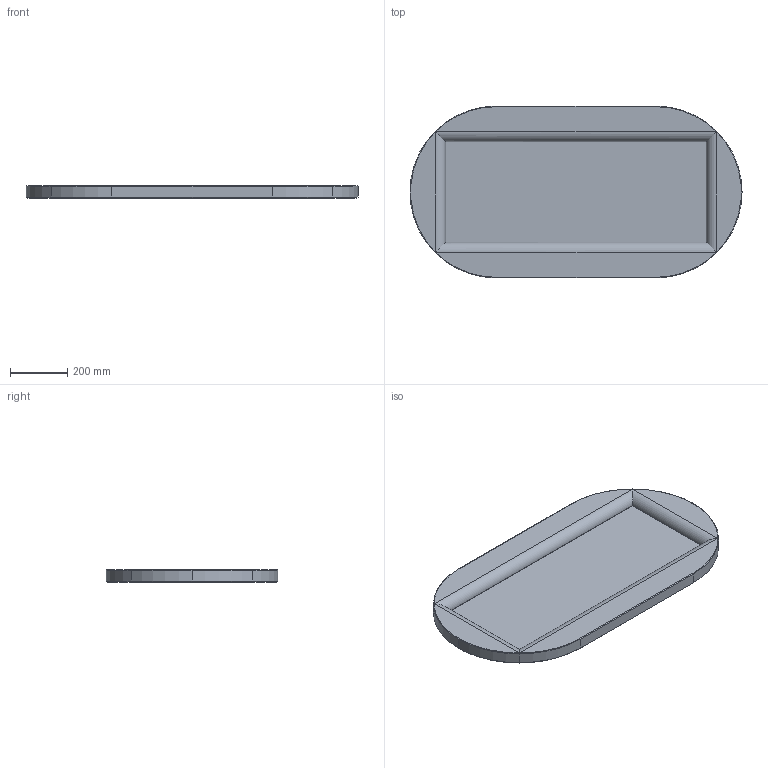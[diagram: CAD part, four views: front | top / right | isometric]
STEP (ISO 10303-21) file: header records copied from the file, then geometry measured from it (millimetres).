
FILE_DESCRIPTION (( 'STEP AP203' ), '1' );
FILE_NAME ('SIGNET MIRROR 116.STEP', '2025-08-29T11:26:31', ( '' ), ( '' ), 'SwSTEP 2.0', 'SolidWorks 2025', '' );
FILE_SCHEMA (( 'CONFIG_CONTROL_DESIGN' ));
Length unit declared in the file: millimetre
Products named in the file (2): Group1^SIGNET MIRROR 116; SIGNET MIRROR 116
Assembly tree (1 placements, depth 2):
  SIGNET MIRROR 116
    Group1^SIGNET MIRROR 116
Bounding box: 1160 x 600 x 45 mm (x, y, z)
Volume: 14996319.4 mm3; surface area: 2150386.3 mm2
Topology: 2 solids, 2 shells, 70 faces, 146 edges, 80 vertices
Faces by surface type: plane 44, cylinder 14, torus 6, cone 6
Entity records: 1984 total; most frequent: DIRECTION 326, CARTESIAN_POINT 312, ORIENTED_EDGE 292, EDGE_CURVE 146, AXIS2_PLACEMENT_3D 110, VECTOR 106, LINE 106, VERTEX_POINT 80
